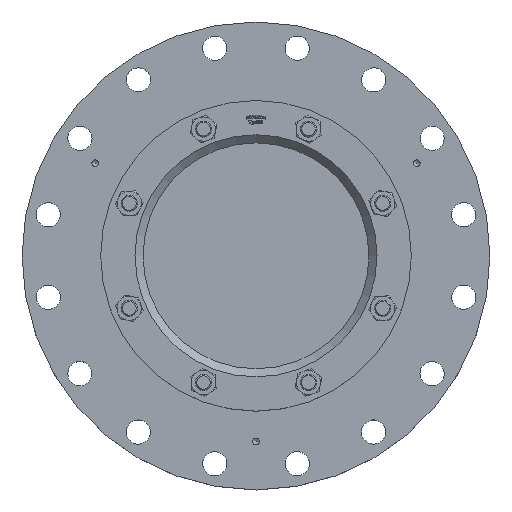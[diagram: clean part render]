
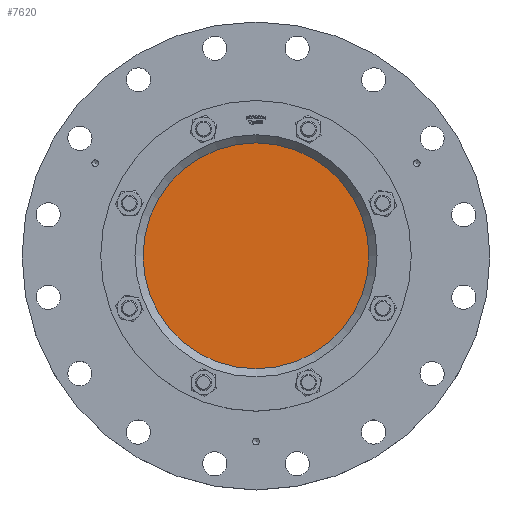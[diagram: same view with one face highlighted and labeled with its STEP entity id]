
A CAD part, top view. The second image highlights one B-rep face of the part: STEP entity #7620.
In plain terms, the highlighted planar face has unit normal (0, 0, 1).
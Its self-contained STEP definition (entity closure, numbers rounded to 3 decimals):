
#1791=FACE_OUTER_BOUND('',#2260,.T.);
#2260=EDGE_LOOP('',(#4826));
#2849=CIRCLE('',#8093,140.);
#3031=VERTEX_POINT('',#10183);
#3747=EDGE_CURVE('',#3031,#3031,#2849,.T.);
#4826=ORIENTED_EDGE('',*,*,#3747,.F.);
#6968=PLANE('',#8092);
#7620=ADVANCED_FACE('',(#1791),#6968,.F.);
#8092=AXIS2_PLACEMENT_3D('',#10182,#8639,#8640);
#8093=AXIS2_PLACEMENT_3D('',#10184,#8641,#8642);
#8639=DIRECTION('center_axis',(0.,0.,-1.));
#8640=DIRECTION('ref_axis',(-1.,0.,0.));
#8641=DIRECTION('center_axis',(0.,0.,-1.));
#8642=DIRECTION('ref_axis',(-1.,0.,0.));
#10182=CARTESIAN_POINT('Origin',(0.,0.,134.));
#10183=CARTESIAN_POINT('',(140.,0.,134.));
#10184=CARTESIAN_POINT('Origin',(0.,0.,134.));
